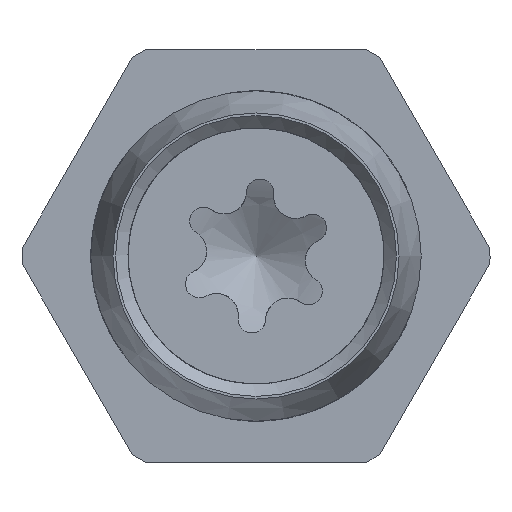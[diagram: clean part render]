
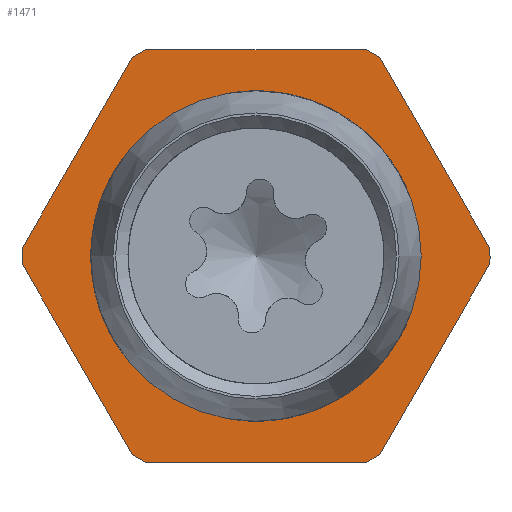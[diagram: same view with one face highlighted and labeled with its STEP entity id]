
A CAD part, front view. The second image highlights one B-rep face of the part: STEP entity #1471.
In plain terms, the highlighted planar face has unit normal (0, -1, 0).
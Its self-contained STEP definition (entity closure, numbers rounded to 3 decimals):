
#62=FACE_BOUND('',#262,.T.);
#80=PLANE('',#1613);
#177=FACE_OUTER_BOUND('',#261,.T.);
#261=EDGE_LOOP('',(#1156,#1157,#1158,#1159,#1160,#1161,#1162,#1163,#1164,
#1165,#1166,#1167));
#262=EDGE_LOOP('',(#1168,#1169));
#352=LINE('',#2770,#440);
#353=LINE('',#2774,#441);
#354=LINE('',#2778,#442);
#355=LINE('',#2782,#443);
#356=LINE('',#2786,#444);
#357=LINE('',#2790,#445);
#440=VECTOR('',#1914,10.);
#441=VECTOR('',#1917,10.);
#442=VECTOR('',#1920,10.);
#443=VECTOR('',#1923,10.);
#444=VECTOR('',#1926,10.);
#445=VECTOR('',#1929,10.);
#518=CIRCLE('',#1611,6.);
#519=CIRCLE('',#1612,6.);
#520=CIRCLE('',#1614,8.5);
#521=CIRCLE('',#1615,8.5);
#522=CIRCLE('',#1616,8.5);
#523=CIRCLE('',#1617,8.5);
#524=CIRCLE('',#1618,8.5);
#525=CIRCLE('',#1619,8.5);
#645=VERTEX_POINT('',#2761);
#646=VERTEX_POINT('',#2762);
#647=VERTEX_POINT('',#2768);
#648=VERTEX_POINT('',#2769);
#649=VERTEX_POINT('',#2771);
#650=VERTEX_POINT('',#2773);
#651=VERTEX_POINT('',#2775);
#652=VERTEX_POINT('',#2777);
#653=VERTEX_POINT('',#2779);
#654=VERTEX_POINT('',#2781);
#655=VERTEX_POINT('',#2783);
#656=VERTEX_POINT('',#2785);
#657=VERTEX_POINT('',#2787);
#658=VERTEX_POINT('',#2789);
#828=EDGE_CURVE('',#645,#646,#518,.T.);
#829=EDGE_CURVE('',#646,#645,#519,.T.);
#832=EDGE_CURVE('',#647,#648,#352,.T.);
#833=EDGE_CURVE('',#649,#648,#520,.T.);
#834=EDGE_CURVE('',#649,#650,#353,.T.);
#835=EDGE_CURVE('',#651,#650,#521,.T.);
#836=EDGE_CURVE('',#651,#652,#354,.T.);
#837=EDGE_CURVE('',#653,#652,#522,.T.);
#838=EDGE_CURVE('',#653,#654,#355,.T.);
#839=EDGE_CURVE('',#655,#654,#523,.T.);
#840=EDGE_CURVE('',#655,#656,#356,.T.);
#841=EDGE_CURVE('',#657,#656,#524,.T.);
#842=EDGE_CURVE('',#657,#658,#357,.T.);
#843=EDGE_CURVE('',#647,#658,#525,.T.);
#1156=ORIENTED_EDGE('',*,*,#832,.T.);
#1157=ORIENTED_EDGE('',*,*,#833,.F.);
#1158=ORIENTED_EDGE('',*,*,#834,.T.);
#1159=ORIENTED_EDGE('',*,*,#835,.F.);
#1160=ORIENTED_EDGE('',*,*,#836,.T.);
#1161=ORIENTED_EDGE('',*,*,#837,.F.);
#1162=ORIENTED_EDGE('',*,*,#838,.T.);
#1163=ORIENTED_EDGE('',*,*,#839,.F.);
#1164=ORIENTED_EDGE('',*,*,#840,.T.);
#1165=ORIENTED_EDGE('',*,*,#841,.F.);
#1166=ORIENTED_EDGE('',*,*,#842,.T.);
#1167=ORIENTED_EDGE('',*,*,#843,.F.);
#1168=ORIENTED_EDGE('',*,*,#828,.T.);
#1169=ORIENTED_EDGE('',*,*,#829,.T.);
#1471=ADVANCED_FACE('',(#177,#62),#80,.T.);
#1611=AXIS2_PLACEMENT_3D('',#2763,#1906,#1907);
#1612=AXIS2_PLACEMENT_3D('',#2764,#1908,#1909);
#1613=AXIS2_PLACEMENT_3D('',#2767,#1912,#1913);
#1614=AXIS2_PLACEMENT_3D('',#2772,#1915,#1916);
#1615=AXIS2_PLACEMENT_3D('',#2776,#1918,#1919);
#1616=AXIS2_PLACEMENT_3D('',#2780,#1921,#1922);
#1617=AXIS2_PLACEMENT_3D('',#2784,#1924,#1925);
#1618=AXIS2_PLACEMENT_3D('',#2788,#1927,#1928);
#1619=AXIS2_PLACEMENT_3D('',#2791,#1930,#1931);
#1906=DIRECTION('center_axis',(0.,1.,0.));
#1907=DIRECTION('ref_axis',(-0.5,0.,0.866));
#1908=DIRECTION('center_axis',(0.,1.,0.));
#1909=DIRECTION('ref_axis',(-0.5,0.,0.866));
#1912=DIRECTION('center_axis',(0.,-1.,0.));
#1913=DIRECTION('ref_axis',(0.,0.,
-1.));
#1914=DIRECTION('',(-0.5,0.,0.866));
#1915=DIRECTION('center_axis',(0.,1.,0.));
#1916=DIRECTION('ref_axis',(-1.,0.,0.));
#1917=DIRECTION('',(-1.,0.,0.));
#1918=DIRECTION('center_axis',(0.,1.,0.));
#1919=DIRECTION('ref_axis',(-1.,0.,0.));
#1920=DIRECTION('',(-0.5,0.,-0.866));
#1921=DIRECTION('center_axis',(0.,1.,0.));
#1922=DIRECTION('ref_axis',(-1.,0.,0.));
#1923=DIRECTION('',(0.5,0.,-0.866));
#1924=DIRECTION('center_axis',(0.,1.,0.));
#1925=DIRECTION('ref_axis',(-1.,0.,0.));
#1926=DIRECTION('',(1.,0.,0.));
#1927=DIRECTION('center_axis',(0.,1.,0.));
#1928=DIRECTION('ref_axis',(-1.,0.,0.));
#1929=DIRECTION('',(0.5,0.,0.866));
#1930=DIRECTION('center_axis',(0.,1.,0.));
#1931=DIRECTION('ref_axis',(-1.,0.,0.));
#2761=CARTESIAN_POINT('',(-3.,28.2,5.196));
#2762=CARTESIAN_POINT('',(3.,28.2,-5.196));
#2763=CARTESIAN_POINT('Origin',(0.,28.2,0.));
#2764=CARTESIAN_POINT('Origin',(0.,28.2,0.));
#2767=CARTESIAN_POINT('Origin',(-6.75,28.2,0.));
#2768=CARTESIAN_POINT('',(8.495,28.2,0.286));
#2769=CARTESIAN_POINT('',(4.495,28.2,7.214));
#2770=CARTESIAN_POINT('',(6.734,28.2,3.336));
#2771=CARTESIAN_POINT('',(4.,28.2,7.5));
#2772=CARTESIAN_POINT('Origin',(0.,28.2,0.));
#2773=CARTESIAN_POINT('',(-4.,28.2,7.5));
#2774=CARTESIAN_POINT('',(-1.21,28.2,7.5));
#2775=CARTESIAN_POINT('',(-4.495,28.2,7.214));
#2776=CARTESIAN_POINT('Origin',(0.,28.2,0.));
#2777=CARTESIAN_POINT('',(-8.495,28.2,0.286));
#2778=CARTESIAN_POINT('',(-6.256,28.2,4.164));
#2779=CARTESIAN_POINT('',(-8.495,28.2,-0.286));
#2780=CARTESIAN_POINT('Origin',(0.,28.2,0.));
#2781=CARTESIAN_POINT('',(-4.495,28.2,-7.214));
#2782=CARTESIAN_POINT('',(-8.421,28.2,-0.414));
#2783=CARTESIAN_POINT('',(-4.,28.2,-7.5));
#2784=CARTESIAN_POINT('Origin',(0.,28.2,0.));
#2785=CARTESIAN_POINT('',(4.,28.2,-7.5));
#2786=CARTESIAN_POINT('',(-5.54,28.2,-7.5));
#2787=CARTESIAN_POINT('',(4.495,28.2,-7.214));
#2788=CARTESIAN_POINT('Origin',(0.,28.2,0.));
#2789=CARTESIAN_POINT('',(8.495,28.2,-0.286));
#2790=CARTESIAN_POINT('',(4.569,28.2,-7.086));
#2791=CARTESIAN_POINT('Origin',(0.,28.2,0.));
